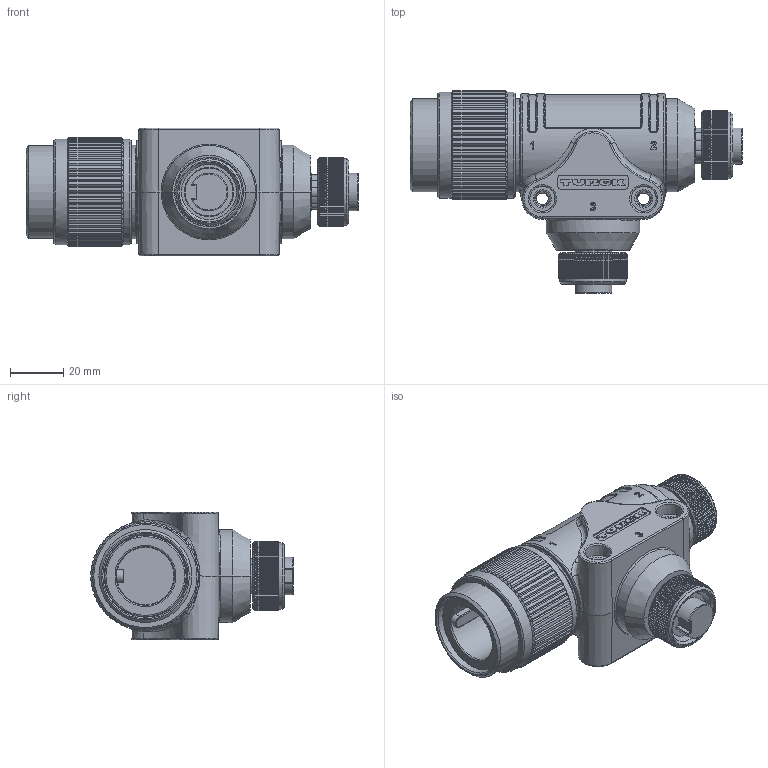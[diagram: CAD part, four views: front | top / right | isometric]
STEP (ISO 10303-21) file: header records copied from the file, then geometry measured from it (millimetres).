
FILE_DESCRIPTION(/* description */ ('PART (MM)'),/* implementation_level */ '2;1');
FILE_NAME(/* name */ 'L:\CAD Inventor\Workspace\Catalogs\CATALOG-TURCK CONNECTORS\GSDM_2RKM.stp',/* time_stamp */ '2021-07-23T11:03:11-05:00',/* author */ ('RSwans'),/* organization */ (''),/* preprocessor_version */ 'ST-DEVELOPER v16.5',/* originating_system */ 'Autodesk Inventor 2017',/* authorisation */ '');
FILE_SCHEMA (('AUTOMOTIVE_DESIGN { 1 0 10303 214 3 1 1 }'));
Products named in the file (1): Part5
Bounding box: 124.75 x 76.04 x 48 mm (x, y, z)
Volume: 160899.4 mm3; surface area: 40632 mm2
Topology: 1 solids, 15 shells, 1644 faces, 4526 edges, 2952 vertices
Faces by surface type: plane 957, cylinder 462, bspline 92, torus 66, cone 63, sphere 4
Full cylindrical faces by diameter (mm): 1.9 x6, 2.5 x6, 3.2 x6, 3.3 x6, 4.4 x4, 15.5 x2, 16 x2, 18 x2, 18.5 x2, 20.638 x2, 22.5 x2, 24.9 x1, 25 x2, 30.6 x1, 31 x1, 33.1 x1, 34.7 x1, 34.925 x1, 37.95 x1, 39.764 x2
Entity records: 55998 total; most frequent: CARTESIAN_POINT 12394, DIRECTION 8896, ORIENTED_EDGE 8754, EDGE_CURVE 4377, AXIS2_PLACEMENT_3D 3218, VERTEX_POINT 2907, LINE 2460, VECTOR 2460
